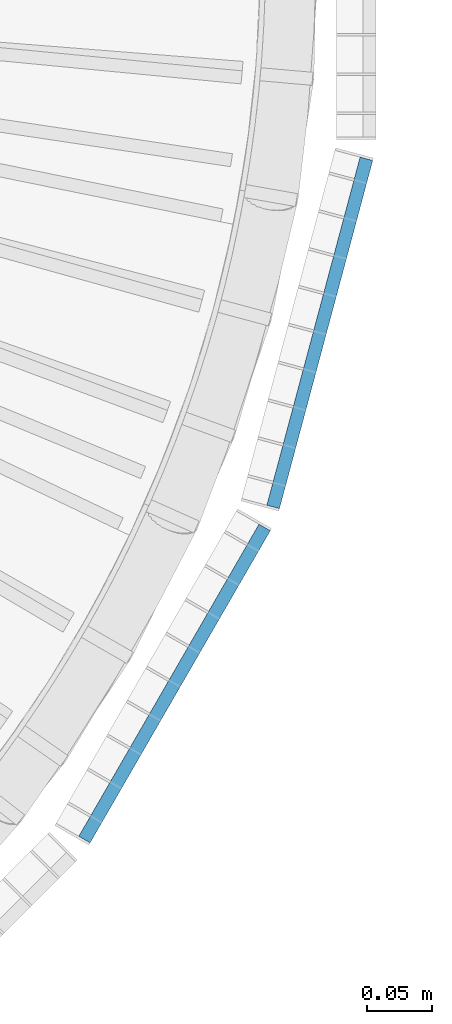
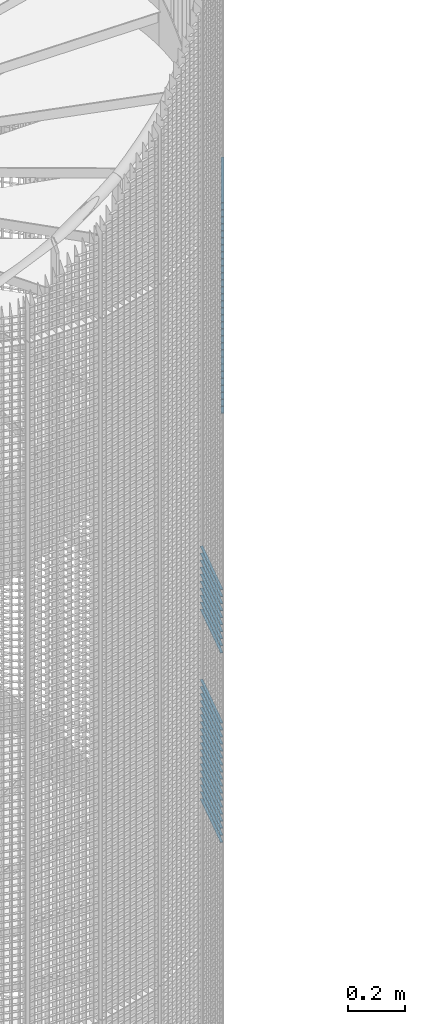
# One storey, part 258 of 1183: 59 beams, 2 elements without a shape of their own.
"""IFC2X3 building model written with IfcOpenShell, lengths in millimetres."""

from ifc_helpers import new_model, si_unit, frame, origin_with_axes, origin_2d_with_axis, place, context, subcontext, project, spatial, rectangle, extrude, material, type_object, element, aggregate, save


model = new_model("IFC2X3")

# Units and contexts
model_context = context("Model", 3, precision=1e-05, world=origin_with_axes())
body_context = subcontext(model_context, "Body", "Model", "MODEL_VIEW")
ifc_project = project(units=[si_unit("LENGTHUNIT", "METRE", prefix="MILLI"), si_unit("AREAUNIT", "SQUARE_METRE"), si_unit("VOLUMEUNIT", "CUBIC_METRE"), si_unit("MASSUNIT", "GRAM", prefix="KILO"), si_unit("TIMEUNIT", "SECOND"), si_unit("PLANEANGLEUNIT", "RADIAN"), si_unit("SOLIDANGLEUNIT", "STERADIAN"), si_unit("THERMODYNAMICTEMPERATUREUNIT", "DEGREE_CELSIUS"), si_unit("LUMINOUSINTENSITYUNIT", "LUMEN")], contexts=[model_context])

# Site, building, storey
site_placement = place(None, origin_with_axes())
site = spatial("IfcSite", under=ifc_project, at=site_placement, Name="Undefined", CompositionType="ELEMENT")
building_placement = place(site_placement, origin_with_axes())
building = spatial("IfcBuilding", under=site, at=building_placement, Name="Undefined", CompositionType="ELEMENT")
storey_placement = place(building_placement, origin_with_axes())
storey = spatial("IfcBuildingStorey", under=building, at=storey_placement, Name="Undefined", CompositionType="ELEMENT", Elevation=0.0)

# Assembly, beams
assembly_1_placement = place(storey_placement, origin_with_axes())
assembly_1 = element("IfcElementAssembly", 1, at=assembly_1_placement, inside=storey, Name="BORDURE", AssemblyPlace="NOTDEFINED", PredefinedType="NOTDEFINED")
ifc_material = material(Name="STEEL/S235JR")
beam_type = type_object("IfcBeamType", Name="PL2*10", PredefinedType="NOTDEFINED")
beam_1_placement = place(assembly_1_placement, frame((1039.82309522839, -421.483733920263, 3540.0), z_axis=(0.965925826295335, -0.258819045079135, 0.0), x_axis=(0.258819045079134, 0.965925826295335, 0.0)))
beam_1 = element("IfcBeam", 2, at=beam_1_placement, type_object=beam_type, material=ifc_material, Name="ENTRETOISE", context=body_context, shape_type="SweptSolid", body=[
    extrude(rectangle(XDim=2.0, YDim=10.0, at=origin_2d_with_axis()), frame((275.999999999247, 9.09494701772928e-13, 1.53210777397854e-14), z_axis=(-1.0, 0.0, 0.0), x_axis=(0.0, -1.0, 0.0)), (0.0, 0.0, 1.0), 276.0),
])
beam_2_placement = place(assembly_1_placement, frame((1039.82309522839, -421.483733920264, 3840.0), z_axis=(0.965925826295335, -0.258819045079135, 0.0), x_axis=(0.258819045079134, 0.965925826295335, 0.0)))
beam_2 = element("IfcBeam", 3, at=beam_2_placement, type_object=beam_type, material=ifc_material, Name="ENTRETOISE", context=body_context, shape_type="SweptSolid", body=[
    extrude(rectangle(XDim=2.0, YDim=10.0, at=origin_2d_with_axis()), frame((275.999999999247, 9.09494701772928e-13, 1.53210777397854e-14), z_axis=(-1.0, 0.0, 0.0), x_axis=(0.0, -1.0, 0.0)), (0.0, 0.0, 1.0), 276.0),
])
beam_3_placement = place(assembly_1_placement, frame((1039.82309522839, -421.483733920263, 3510.0), z_axis=(0.965925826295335, -0.258819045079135, 0.0), x_axis=(0.258819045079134, 0.965925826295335, 0.0)))
beam_3 = element("IfcBeam", 4, at=beam_3_placement, type_object=beam_type, material=ifc_material, Name="ENTRETOISE", context=body_context, shape_type="SweptSolid", body=[
    extrude(rectangle(XDim=2.0, YDim=10.0, at=origin_2d_with_axis()), frame((275.999999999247, 9.09494701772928e-13, 1.53210777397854e-14), z_axis=(-1.0, 0.0, 0.0), x_axis=(0.0, -1.0, 0.0)), (0.0, 0.0, 1.0), 276.0),
])
beam_4_placement = place(assembly_1_placement, frame((1039.82309522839, -421.483733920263, 3480.0), z_axis=(0.965925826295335, -0.258819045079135, 0.0), x_axis=(0.258819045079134, 0.965925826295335, 0.0)))
beam_4 = element("IfcBeam", 5, at=beam_4_placement, type_object=beam_type, material=ifc_material, Name="ENTRETOISE", context=body_context, shape_type="SweptSolid", body=[
    extrude(rectangle(XDim=2.0, YDim=10.0, at=origin_2d_with_axis()), frame((275.999999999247, 9.09494701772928e-13, 1.53210777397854e-14), z_axis=(-1.0, 0.0, 0.0), x_axis=(0.0, -1.0, 0.0)), (0.0, 0.0, 1.0), 276.0),
])
beam_5_placement = place(assembly_1_placement, frame((1039.82309522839, -421.483733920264, 3870.0), z_axis=(0.965925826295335, -0.258819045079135, 0.0), x_axis=(0.258819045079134, 0.965925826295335, 0.0)))
beam_5 = element("IfcBeam", 6, at=beam_5_placement, type_object=beam_type, material=ifc_material, Name="ENTRETOISE", context=body_context, shape_type="SweptSolid", body=[
    extrude(rectangle(XDim=2.0, YDim=10.0, at=origin_2d_with_axis()), frame((275.999999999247, 9.09494701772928e-13, 1.53210777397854e-14), z_axis=(-1.0, 0.0, 0.0), x_axis=(0.0, -1.0, 0.0)), (0.0, 0.0, 1.0), 276.0),
])
beam_6_placement = place(assembly_1_placement, frame((1039.82309522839, -421.483733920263, 3450.0), z_axis=(0.965925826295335, -0.258819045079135, 0.0), x_axis=(0.258819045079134, 0.965925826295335, 0.0)))
beam_6 = element("IfcBeam", 7, at=beam_6_placement, type_object=beam_type, material=ifc_material, Name="ENTRETOISE", context=body_context, shape_type="SweptSolid", body=[
    extrude(rectangle(XDim=2.0, YDim=10.0, at=origin_2d_with_axis()), frame((275.999999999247, 9.09494701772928e-13, 1.53210777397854e-14), z_axis=(-1.0, 0.0, 0.0), x_axis=(0.0, -1.0, 0.0)), (0.0, 0.0, 1.0), 276.0),
])
beam_7_placement = place(assembly_1_placement, frame((1039.82309522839, -421.483733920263, 3420.0), z_axis=(0.965925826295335, -0.258819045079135, 0.0), x_axis=(0.258819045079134, 0.965925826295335, 0.0)))
beam_7 = element("IfcBeam", 8, at=beam_7_placement, type_object=beam_type, material=ifc_material, Name="ENTRETOISE", context=body_context, shape_type="SweptSolid", body=[
    extrude(rectangle(XDim=2.0, YDim=10.0, at=origin_2d_with_axis()), frame((275.999999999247, 9.09494701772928e-13, 1.53210777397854e-14), z_axis=(-1.0, 0.0, 0.0), x_axis=(0.0, -1.0, 0.0)), (0.0, 0.0, 1.0), 276.0),
])
beam_8_placement = place(assembly_1_placement, frame((1039.82309522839, -421.483733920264, 3900.0), z_axis=(0.965925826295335, -0.258819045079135, 0.0), x_axis=(0.258819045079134, 0.965925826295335, 0.0)))
beam_8 = element("IfcBeam", 9, at=beam_8_placement, type_object=beam_type, material=ifc_material, Name="ENTRETOISE", context=body_context, shape_type="SweptSolid", body=[
    extrude(rectangle(XDim=2.0, YDim=10.0, at=origin_2d_with_axis()), frame((275.999999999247, 9.09494701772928e-13, 1.53210777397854e-14), z_axis=(-1.0, 0.0, 0.0), x_axis=(0.0, -1.0, 0.0)), (0.0, 0.0, 1.0), 276.0),
])
beam_9_placement = place(assembly_1_placement, frame((1039.82309522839, -421.483733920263, 3390.0), z_axis=(0.965925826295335, -0.258819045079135, 0.0), x_axis=(0.258819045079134, 0.965925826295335, 0.0)))
beam_9 = element("IfcBeam", 10, at=beam_9_placement, type_object=beam_type, material=ifc_material, Name="ENTRETOISE", context=body_context, shape_type="SweptSolid", body=[
    extrude(rectangle(XDim=2.0, YDim=10.0, at=origin_2d_with_axis()), frame((275.999999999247, 9.09494701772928e-13, 1.53210777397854e-14), z_axis=(-1.0, 0.0, 0.0), x_axis=(0.0, -1.0, 0.0)), (0.0, 0.0, 1.0), 276.0),
])
beam_10_placement = place(assembly_1_placement, frame((1039.82309522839, -421.483733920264, 3930.0), z_axis=(0.965925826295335, -0.258819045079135, 0.0), x_axis=(0.258819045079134, 0.965925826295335, 0.0)))
beam_10 = element("IfcBeam", 11, at=beam_10_placement, type_object=beam_type, material=ifc_material, Name="ENTRETOISE", context=body_context, shape_type="SweptSolid", body=[
    extrude(rectangle(XDim=2.0, YDim=10.0, at=origin_2d_with_axis()), frame((275.999999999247, 9.09494701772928e-13, 1.53210777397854e-14), z_axis=(-1.0, 0.0, 0.0), x_axis=(0.0, -1.0, 0.0)), (0.0, 0.0, 1.0), 276.0),
])
beam_11_placement = place(assembly_1_placement, frame((1039.82309522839, -421.483733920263, 3360.0), z_axis=(0.965925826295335, -0.258819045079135, 0.0), x_axis=(0.258819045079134, 0.965925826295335, 0.0)))
beam_11 = element("IfcBeam", 12, at=beam_11_placement, type_object=beam_type, material=ifc_material, Name="ENTRETOISE", context=body_context, shape_type="SweptSolid", body=[
    extrude(rectangle(XDim=2.0, YDim=10.0, at=origin_2d_with_axis()), frame((275.999999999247, 9.09494701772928e-13, 1.53210777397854e-14), z_axis=(-1.0, 0.0, 0.0), x_axis=(0.0, -1.0, 0.0)), (0.0, 0.0, 1.0), 276.0),
])
beam_12_placement = place(assembly_1_placement, frame((1039.82309522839, -421.483733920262, 3330.0), z_axis=(0.965925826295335, -0.258819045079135, 0.0), x_axis=(0.258819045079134, 0.965925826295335, 0.0)))
beam_12 = element("IfcBeam", 13, at=beam_12_placement, type_object=beam_type, material=ifc_material, Name="ENTRETOISE", context=body_context, shape_type="SweptSolid", body=[
    extrude(rectangle(XDim=2.0, YDim=10.0, at=origin_2d_with_axis()), frame((275.999999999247, 9.09494701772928e-13, 1.53210777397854e-14), z_axis=(-1.0, 0.0, 0.0), x_axis=(0.0, -1.0, 0.0)), (0.0, 0.0, 1.0), 276.0),
])
beam_13_placement = place(assembly_1_placement, frame((1039.82309522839, -421.483733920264, 3960.0), z_axis=(0.965925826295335, -0.258819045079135, 0.0), x_axis=(0.258819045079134, 0.965925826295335, 0.0)))
beam_13 = element("IfcBeam", 14, at=beam_13_placement, type_object=beam_type, material=ifc_material, Name="ENTRETOISE", context=body_context, shape_type="SweptSolid", body=[
    extrude(rectangle(XDim=2.0, YDim=10.0, at=origin_2d_with_axis()), frame((275.999999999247, 9.09494701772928e-13, 1.53210777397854e-14), z_axis=(-1.0, 0.0, 0.0), x_axis=(0.0, -1.0, 0.0)), (0.0, 0.0, 1.0), 276.0),
])
beam_14_placement = place(assembly_1_placement, frame((1039.82309522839, -421.483733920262, 3300.0), z_axis=(0.965925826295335, -0.258819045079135, 0.0), x_axis=(0.258819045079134, 0.965925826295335, 0.0)))
beam_14 = element("IfcBeam", 15, at=beam_14_placement, type_object=beam_type, material=ifc_material, Name="ENTRETOISE", context=body_context, shape_type="SweptSolid", body=[
    extrude(rectangle(XDim=2.0, YDim=10.0, at=origin_2d_with_axis()), frame((275.999999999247, 9.09494701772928e-13, 1.53210777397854e-14), z_axis=(-1.0, 0.0, 0.0), x_axis=(0.0, -1.0, 0.0)), (0.0, 0.0, 1.0), 276.0),
])
beam_15_placement = place(assembly_1_placement, frame((1039.82309522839, -421.483733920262, 3270.0), z_axis=(0.965925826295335, -0.258819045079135, 0.0), x_axis=(0.258819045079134, 0.965925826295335, 0.0)))
beam_15 = element("IfcBeam", 16, at=beam_15_placement, type_object=beam_type, material=ifc_material, Name="ENTRETOISE", context=body_context, shape_type="SweptSolid", body=[
    extrude(rectangle(XDim=2.0, YDim=10.0, at=origin_2d_with_axis()), frame((275.999999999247, 9.09494701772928e-13, 1.53210777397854e-14), z_axis=(-1.0, 0.0, 0.0), x_axis=(0.0, -1.0, 0.0)), (0.0, 0.0, 1.0), 276.0),
])
beam_16_placement = place(assembly_1_placement, frame((1039.82309522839, -421.483733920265, 3990.0), z_axis=(0.965925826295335, -0.258819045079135, 0.0), x_axis=(0.258819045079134, 0.965925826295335, 0.0)))
beam_16 = element("IfcBeam", 17, at=beam_16_placement, type_object=beam_type, material=ifc_material, Name="ENTRETOISE", context=body_context, shape_type="SweptSolid", body=[
    extrude(rectangle(XDim=2.0, YDim=10.0, at=origin_2d_with_axis()), frame((275.999999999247, 9.09494701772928e-13, 1.53210777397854e-14), z_axis=(-1.0, 0.0, 0.0), x_axis=(0.0, -1.0, 0.0)), (0.0, 0.0, 1.0), 276.0),
])
beam_17_placement = place(assembly_1_placement, frame((1039.82309522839, -421.483733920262, 3240.0), z_axis=(0.965925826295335, -0.258819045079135, 0.0), x_axis=(0.258819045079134, 0.965925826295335, 0.0)))
beam_17 = element("IfcBeam", 18, at=beam_17_placement, type_object=beam_type, material=ifc_material, Name="ENTRETOISE", context=body_context, shape_type="SweptSolid", body=[
    extrude(rectangle(XDim=2.0, YDim=10.0, at=origin_2d_with_axis()), frame((275.999999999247, 9.09494701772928e-13, 1.53210777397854e-14), z_axis=(-1.0, 0.0, 0.0), x_axis=(0.0, -1.0, 0.0)), (0.0, 0.0, 1.0), 276.0),
])
beam_18_placement = place(assembly_1_placement, frame((1039.82309522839, -421.483733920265, 4020.0), z_axis=(0.965925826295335, -0.258819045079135, 0.0), x_axis=(0.258819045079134, 0.965925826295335, 0.0)))
beam_18 = element("IfcBeam", 19, at=beam_18_placement, type_object=beam_type, material=ifc_material, Name="ENTRETOISE", context=body_context, shape_type="SweptSolid", body=[
    extrude(rectangle(XDim=2.0, YDim=10.0, at=origin_2d_with_axis()), frame((275.999999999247, 9.09494701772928e-13, 1.53210777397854e-14), z_axis=(-1.0, 0.0, 0.0), x_axis=(0.0, -1.0, 0.0)), (0.0, 0.0, 1.0), 276.0),
])
beam_19_placement = place(assembly_1_placement, frame((1039.82309522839, -421.483733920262, 3210.0), z_axis=(0.965925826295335, -0.258819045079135, 0.0), x_axis=(0.258819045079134, 0.965925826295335, 0.0)))
beam_19 = element("IfcBeam", 20, at=beam_19_placement, type_object=beam_type, material=ifc_material, Name="ENTRETOISE", context=body_context, shape_type="SweptSolid", body=[
    extrude(rectangle(XDim=2.0, YDim=10.0, at=origin_2d_with_axis()), frame((275.999999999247, 9.09494701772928e-13, 1.53210777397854e-14), z_axis=(-1.0, 0.0, 0.0), x_axis=(0.0, -1.0, 0.0)), (0.0, 0.0, 1.0), 276.0),
])
beam_20_placement = place(assembly_1_placement, frame((1039.82309522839, -421.483733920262, 3180.0), z_axis=(0.965925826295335, -0.258819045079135, 0.0), x_axis=(0.258819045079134, 0.965925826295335, 0.0)))
beam_20 = element("IfcBeam", 21, at=beam_20_placement, type_object=beam_type, material=ifc_material, Name="ENTRETOISE", context=body_context, shape_type="SweptSolid", body=[
    extrude(rectangle(XDim=2.0, YDim=10.0, at=origin_2d_with_axis()), frame((275.999999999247, 9.09494701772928e-13, 1.53210777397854e-14), z_axis=(-1.0, 0.0, 0.0), x_axis=(0.0, -1.0, 0.0)), (0.0, 0.0, 1.0), 276.0),
])
beam_21_placement = place(assembly_1_placement, frame((1039.82309522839, -421.483733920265, 4050.0), z_axis=(0.965925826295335, -0.258819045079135, 0.0), x_axis=(0.258819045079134, 0.965925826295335, 0.0)))
beam_21 = element("IfcBeam", 22, at=beam_21_placement, type_object=beam_type, material=ifc_material, Name="ENTRETOISE", context=body_context, shape_type="SweptSolid", body=[
    extrude(rectangle(XDim=2.0, YDim=10.0, at=origin_2d_with_axis()), frame((275.999999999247, 9.09494701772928e-13, 1.53210777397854e-14), z_axis=(-1.0, 0.0, 0.0), x_axis=(0.0, -1.0, 0.0)), (0.0, 0.0, 1.0), 276.0),
])
beam_22_placement = place(assembly_1_placement, frame((1039.82309522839, -421.483733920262, 3150.0), z_axis=(0.965925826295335, -0.258819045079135, 0.0), x_axis=(0.258819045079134, 0.965925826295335, 0.0)))
beam_22 = element("IfcBeam", 23, at=beam_22_placement, type_object=beam_type, material=ifc_material, Name="ENTRETOISE", context=body_context, shape_type="SweptSolid", body=[
    extrude(rectangle(XDim=2.0, YDim=10.0, at=origin_2d_with_axis()), frame((275.999999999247, 9.09494701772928e-13, 1.53210777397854e-14), z_axis=(-1.0, 0.0, 0.0), x_axis=(0.0, -1.0, 0.0)), (0.0, 0.0, 1.0), 276.0),
])
beam_23_placement = place(assembly_1_placement, frame((1039.82309522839, -421.483733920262, 3120.0), z_axis=(0.965925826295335, -0.258819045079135, 0.0), x_axis=(0.258819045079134, 0.965925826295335, 0.0)))
beam_23 = element("IfcBeam", 24, at=beam_23_placement, type_object=beam_type, material=ifc_material, Name="ENTRETOISE", context=body_context, shape_type="SweptSolid", body=[
    extrude(rectangle(XDim=2.0, YDim=10.0, at=origin_2d_with_axis()), frame((275.999999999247, 9.09494701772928e-13, 1.53210777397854e-14), z_axis=(-1.0, 0.0, 0.0), x_axis=(0.0, -1.0, 0.0)), (0.0, 0.0, 1.0), 276.0),
])
beam_24_placement = place(assembly_1_placement, frame((1039.82309522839, -421.483733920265, 4080.0), z_axis=(0.965925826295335, -0.258819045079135, 0.0), x_axis=(0.258819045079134, 0.965925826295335, 0.0)))
beam_24 = element("IfcBeam", 25, at=beam_24_placement, type_object=beam_type, material=ifc_material, Name="ENTRETOISE", context=body_context, shape_type="SweptSolid", body=[
    extrude(rectangle(XDim=2.0, YDim=10.0, at=origin_2d_with_axis()), frame((275.999999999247, 9.09494701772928e-13, 1.53210777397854e-14), z_axis=(-1.0, 0.0, 0.0), x_axis=(0.0, -1.0, 0.0)), (0.0, 0.0, 1.0), 276.0),
])
beam_25_placement = place(assembly_1_placement, frame((1039.82309522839, -421.483733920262, 3090.0), z_axis=(0.965925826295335, -0.258819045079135, 0.0), x_axis=(0.258819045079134, 0.965925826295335, 0.0)))
beam_25 = element("IfcBeam", 26, at=beam_25_placement, type_object=beam_type, material=ifc_material, Name="ENTRETOISE", context=body_context, shape_type="SweptSolid", body=[
    extrude(rectangle(XDim=2.0, YDim=10.0, at=origin_2d_with_axis()), frame((275.999999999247, 9.09494701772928e-13, 1.53210777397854e-14), z_axis=(-1.0, 0.0, 0.0), x_axis=(0.0, -1.0, 0.0)), (0.0, 0.0, 1.0), 276.0),
])
beam_26_placement = place(assembly_1_placement, frame((1039.82309522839, -421.483733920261, 3060.0), z_axis=(0.965925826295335, -0.258819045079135, 0.0), x_axis=(0.258819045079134, 0.965925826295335, 0.0)))
beam_26 = element("IfcBeam", 27, at=beam_26_placement, type_object=beam_type, material=ifc_material, Name="ENTRETOISE", context=body_context, shape_type="SweptSolid", body=[
    extrude(rectangle(XDim=2.0, YDim=10.0, at=origin_2d_with_axis()), frame((275.999999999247, 9.09494701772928e-13, 1.53210777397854e-14), z_axis=(-1.0, 0.0, 0.0), x_axis=(0.0, -1.0, 0.0)), (0.0, 0.0, 1.0), 276.0),
])
beam_27_placement = place(assembly_1_placement, frame((1039.82309522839, -421.483733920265, 4110.0), z_axis=(0.965925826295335, -0.258819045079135, 0.0), x_axis=(0.258819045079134, 0.965925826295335, 0.0)))
beam_27 = element("IfcBeam", 28, at=beam_27_placement, type_object=beam_type, material=ifc_material, Name="ENTRETOISE", context=body_context, shape_type="SweptSolid", body=[
    extrude(rectangle(XDim=2.0, YDim=10.0, at=origin_2d_with_axis()), frame((275.999999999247, 9.09494701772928e-13, 1.53210777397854e-14), z_axis=(-1.0, 0.0, 0.0), x_axis=(0.0, -1.0, 0.0)), (0.0, 0.0, 1.0), 276.0),
])
beam_28_placement = place(assembly_1_placement, frame((1039.82309522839, -421.48373392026, 3030.0), z_axis=(0.965925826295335, -0.258819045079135, 0.0), x_axis=(0.258819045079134, 0.965925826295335, 0.0)))
beam_28 = element("IfcBeam", 29, at=beam_28_placement, type_object=beam_type, material=ifc_material, Name="ENTRETOISE", context=body_context, shape_type="SweptSolid", body=[
    extrude(rectangle(XDim=2.0, YDim=10.0, at=origin_2d_with_axis()), frame((275.999999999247, 9.09494701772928e-13, 1.53210777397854e-14), z_axis=(-1.0, 0.0, 0.0), x_axis=(0.0, -1.0, 0.0)), (0.0, 0.0, 1.0), 276.0),
])
aggregate(assembly_1, [beam_1, beam_2, beam_3, beam_4, beam_5, beam_6, beam_7, beam_8, beam_9, beam_10, beam_11, beam_12, beam_13, beam_14, beam_15, beam_16, beam_17, beam_18, beam_19, beam_20, beam_21, beam_22, beam_23, beam_24, beam_25, beam_26, beam_27, beam_28])

assembly_2_placement = place(storey_placement, origin_with_axes())
assembly_2 = element("IfcElementAssembly", 30, at=assembly_2_placement, inside=storey, Name="BORDURE", AssemblyPlace="NOTDEFINED", PredefinedType="NOTDEFINED")
beam_29_placement = place(assembly_2_placement, frame((895.303964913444, -676.248044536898, 5970.0), z_axis=(0.866025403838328, -0.49999999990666, 0.0), x_axis=(0.49999999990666, 0.866025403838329, 0.0)))
beam_29 = element("IfcBeam", 31, at=beam_29_placement, type_object=beam_type, material=ifc_material, Name="ENTRETOISE", context=body_context, shape_type="SweptSolid", body=[
    extrude(rectangle(XDim=2.0, YDim=10.0, at=origin_2d_with_axis()), frame((275.999999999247, 9.09494701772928e-13, 1.53210777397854e-14), z_axis=(-1.0, 0.0, 0.0), x_axis=(0.0, -1.0, 0.0)), (0.0, 0.0, 1.0), 276.0),
])
beam_30_placement = place(assembly_2_placement, frame((895.303964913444, -676.248044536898, 5940.0), z_axis=(0.866025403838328, -0.49999999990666, 0.0), x_axis=(0.49999999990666, 0.866025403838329, 0.0)))
beam_30 = element("IfcBeam", 32, at=beam_30_placement, type_object=beam_type, material=ifc_material, Name="ENTRETOISE", context=body_context, shape_type="SweptSolid", body=[
    extrude(rectangle(XDim=2.0, YDim=10.0, at=origin_2d_with_axis()), frame((275.999999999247, 9.09494701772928e-13, 1.53210777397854e-14), z_axis=(-1.0, 0.0, 0.0), x_axis=(0.0, -1.0, 0.0)), (0.0, 0.0, 1.0), 276.0),
])
beam_31_placement = place(assembly_2_placement, frame((895.303964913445, -676.248044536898, 5910.0), z_axis=(0.866025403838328, -0.49999999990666, 0.0), x_axis=(0.49999999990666, 0.866025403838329, 0.0)))
beam_31 = element("IfcBeam", 33, at=beam_31_placement, type_object=beam_type, material=ifc_material, Name="ENTRETOISE", context=body_context, shape_type="SweptSolid", body=[
    extrude(rectangle(XDim=2.0, YDim=10.0, at=origin_2d_with_axis()), frame((275.999999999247, 9.09494701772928e-13, 1.53210777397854e-14), z_axis=(-1.0, 0.0, 0.0), x_axis=(0.0, -1.0, 0.0)), (0.0, 0.0, 1.0), 276.0),
])
beam_32_placement = place(assembly_2_placement, frame((895.303964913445, -676.248044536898, 5880.0), z_axis=(0.866025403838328, -0.49999999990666, 0.0), x_axis=(0.49999999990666, 0.866025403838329, 0.0)))
beam_32 = element("IfcBeam", 34, at=beam_32_placement, type_object=beam_type, material=ifc_material, Name="ENTRETOISE", context=body_context, shape_type="SweptSolid", body=[
    extrude(rectangle(XDim=2.0, YDim=10.0, at=origin_2d_with_axis()), frame((275.999999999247, 9.09494701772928e-13, 1.53210777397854e-14), z_axis=(-1.0, 0.0, 0.0), x_axis=(0.0, -1.0, 0.0)), (0.0, 0.0, 1.0), 276.0),
])
beam_33_placement = place(assembly_2_placement, frame((895.303964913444, -676.248044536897, 5850.0), z_axis=(0.866025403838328, -0.49999999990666, 0.0), x_axis=(0.49999999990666, 0.866025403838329, 0.0)))
beam_33 = element("IfcBeam", 35, at=beam_33_placement, type_object=beam_type, material=ifc_material, Name="ENTRETOISE", context=body_context, shape_type="SweptSolid", body=[
    extrude(rectangle(XDim=2.0, YDim=10.0, at=origin_2d_with_axis()), frame((275.999999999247, 9.09494701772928e-13, 1.53210777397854e-14), z_axis=(-1.0, 0.0, 0.0), x_axis=(0.0, -1.0, 0.0)), (0.0, 0.0, 1.0), 276.0),
])
beam_34_placement = place(assembly_2_placement, frame((895.303964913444, -676.248044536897, 5820.0), z_axis=(0.866025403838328, -0.49999999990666, 0.0), x_axis=(0.49999999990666, 0.866025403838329, 0.0)))
beam_34 = element("IfcBeam", 36, at=beam_34_placement, type_object=beam_type, material=ifc_material, Name="ENTRETOISE", context=body_context, shape_type="SweptSolid", body=[
    extrude(rectangle(XDim=2.0, YDim=10.0, at=origin_2d_with_axis()), frame((275.999999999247, 9.09494701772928e-13, 1.53210777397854e-14), z_axis=(-1.0, 0.0, 0.0), x_axis=(0.0, -1.0, 0.0)), (0.0, 0.0, 1.0), 276.0),
])
beam_35_placement = place(assembly_2_placement, frame((895.303964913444, -676.248044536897, 5790.0), z_axis=(0.866025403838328, -0.49999999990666, 0.0), x_axis=(0.49999999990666, 0.866025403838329, 0.0)))
beam_35 = element("IfcBeam", 37, at=beam_35_placement, type_object=beam_type, material=ifc_material, Name="ENTRETOISE", context=body_context, shape_type="SweptSolid", body=[
    extrude(rectangle(XDim=2.0, YDim=10.0, at=origin_2d_with_axis()), frame((275.999999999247, 9.09494701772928e-13, 1.53210777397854e-14), z_axis=(-1.0, 0.0, 0.0), x_axis=(0.0, -1.0, 0.0)), (0.0, 0.0, 1.0), 276.0),
])
beam_36_placement = place(assembly_2_placement, frame((895.303964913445, -676.248044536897, 5760.0), z_axis=(0.866025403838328, -0.49999999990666, 0.0), x_axis=(0.49999999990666, 0.866025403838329, 0.0)))
beam_36 = element("IfcBeam", 38, at=beam_36_placement, type_object=beam_type, material=ifc_material, Name="ENTRETOISE", context=body_context, shape_type="SweptSolid", body=[
    extrude(rectangle(XDim=2.0, YDim=10.0, at=origin_2d_with_axis()), frame((275.999999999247, 9.09494701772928e-13, 1.53210777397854e-14), z_axis=(-1.0, 0.0, 0.0), x_axis=(0.0, -1.0, 0.0)), (0.0, 0.0, 1.0), 276.0),
])
beam_37_placement = place(assembly_2_placement, frame((895.303964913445, -676.248044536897, 5730.0), z_axis=(0.866025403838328, -0.49999999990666, 0.0), x_axis=(0.49999999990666, 0.866025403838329, 0.0)))
beam_37 = element("IfcBeam", 39, at=beam_37_placement, type_object=beam_type, material=ifc_material, Name="ENTRETOISE", context=body_context, shape_type="SweptSolid", body=[
    extrude(rectangle(XDim=2.0, YDim=10.0, at=origin_2d_with_axis()), frame((275.999999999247, 9.09494701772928e-13, 1.53210777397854e-14), z_axis=(-1.0, 0.0, 0.0), x_axis=(0.0, -1.0, 0.0)), (0.0, 0.0, 1.0), 276.0),
])
beam_38_placement = place(assembly_2_placement, frame((895.303964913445, -676.248044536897, 5700.0), z_axis=(0.866025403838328, -0.49999999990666, 0.0), x_axis=(0.49999999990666, 0.866025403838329, 0.0)))
beam_38 = element("IfcBeam", 40, at=beam_38_placement, type_object=beam_type, material=ifc_material, Name="ENTRETOISE", context=body_context, shape_type="SweptSolid", body=[
    extrude(rectangle(XDim=2.0, YDim=10.0, at=origin_2d_with_axis()), frame((275.999999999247, 9.09494701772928e-13, 1.53210777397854e-14), z_axis=(-1.0, 0.0, 0.0), x_axis=(0.0, -1.0, 0.0)), (0.0, 0.0, 1.0), 276.0),
])
beam_39_placement = place(assembly_2_placement, frame((895.303964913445, -676.248044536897, 5670.0), z_axis=(0.866025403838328, -0.49999999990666, 0.0), x_axis=(0.49999999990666, 0.866025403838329, 0.0)))
beam_39 = element("IfcBeam", 41, at=beam_39_placement, type_object=beam_type, material=ifc_material, Name="ENTRETOISE", context=body_context, shape_type="SweptSolid", body=[
    extrude(rectangle(XDim=2.0, YDim=10.0, at=origin_2d_with_axis()), frame((275.999999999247, 9.09494701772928e-13, 1.53210777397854e-14), z_axis=(-1.0, 0.0, 0.0), x_axis=(0.0, -1.0, 0.0)), (0.0, 0.0, 1.0), 276.0),
])
beam_40_placement = place(assembly_2_placement, frame((895.303964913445, -676.248044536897, 5640.0), z_axis=(0.866025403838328, -0.49999999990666, 0.0), x_axis=(0.49999999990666, 0.866025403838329, 0.0)))
beam_40 = element("IfcBeam", 42, at=beam_40_placement, type_object=beam_type, material=ifc_material, Name="ENTRETOISE", context=body_context, shape_type="SweptSolid", body=[
    extrude(rectangle(XDim=2.0, YDim=10.0, at=origin_2d_with_axis()), frame((275.999999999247, 9.09494701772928e-13, 1.53210777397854e-14), z_axis=(-1.0, 0.0, 0.0), x_axis=(0.0, -1.0, 0.0)), (0.0, 0.0, 1.0), 276.0),
])
beam_41_placement = place(assembly_2_placement, frame((895.303964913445, -676.248044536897, 5610.0), z_axis=(0.866025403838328, -0.49999999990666, 0.0), x_axis=(0.49999999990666, 0.866025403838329, 0.0)))
beam_41 = element("IfcBeam", 43, at=beam_41_placement, type_object=beam_type, material=ifc_material, Name="ENTRETOISE", context=body_context, shape_type="SweptSolid", body=[
    extrude(rectangle(XDim=2.0, YDim=10.0, at=origin_2d_with_axis()), frame((275.999999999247, 9.09494701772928e-13, 1.53210777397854e-14), z_axis=(-1.0, 0.0, 0.0), x_axis=(0.0, -1.0, 0.0)), (0.0, 0.0, 1.0), 276.0),
])
beam_42_placement = place(assembly_2_placement, frame((895.303964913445, -676.248044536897, 5580.0), z_axis=(0.866025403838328, -0.49999999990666, 0.0), x_axis=(0.49999999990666, 0.866025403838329, 0.0)))
beam_42 = element("IfcBeam", 44, at=beam_42_placement, type_object=beam_type, material=ifc_material, Name="ENTRETOISE", context=body_context, shape_type="SweptSolid", body=[
    extrude(rectangle(XDim=2.0, YDim=10.0, at=origin_2d_with_axis()), frame((275.999999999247, 9.09494701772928e-13, 1.53210777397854e-14), z_axis=(-1.0, 0.0, 0.0), x_axis=(0.0, -1.0, 0.0)), (0.0, 0.0, 1.0), 276.0),
])
beam_43_placement = place(assembly_2_placement, frame((895.303964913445, -676.248044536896, 5550.0), z_axis=(0.866025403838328, -0.49999999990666, 0.0), x_axis=(0.49999999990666, 0.866025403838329, 0.0)))
beam_43 = element("IfcBeam", 45, at=beam_43_placement, type_object=beam_type, material=ifc_material, Name="ENTRETOISE", context=body_context, shape_type="SweptSolid", body=[
    extrude(rectangle(XDim=2.0, YDim=10.0, at=origin_2d_with_axis()), frame((275.999999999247, 9.09494701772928e-13, 1.53210777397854e-14), z_axis=(-1.0, 0.0, 0.0), x_axis=(0.0, -1.0, 0.0)), (0.0, 0.0, 1.0), 276.0),
])
beam_44_placement = place(assembly_2_placement, frame((895.303964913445, -676.248044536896, 5520.0), z_axis=(0.866025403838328, -0.49999999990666, 0.0), x_axis=(0.49999999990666, 0.866025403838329, 0.0)))
beam_44 = element("IfcBeam", 46, at=beam_44_placement, type_object=beam_type, material=ifc_material, Name="ENTRETOISE", context=body_context, shape_type="SweptSolid", body=[
    extrude(rectangle(XDim=2.0, YDim=10.0, at=origin_2d_with_axis()), frame((275.999999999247, 9.09494701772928e-13, 1.53210777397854e-14), z_axis=(-1.0, 0.0, 0.0), x_axis=(0.0, -1.0, 0.0)), (0.0, 0.0, 1.0), 276.0),
])
beam_45_placement = place(assembly_2_placement, frame((895.303964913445, -676.248044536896, 5490.0), z_axis=(0.866025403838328, -0.49999999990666, 0.0), x_axis=(0.49999999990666, 0.866025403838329, 0.0)))
beam_45 = element("IfcBeam", 47, at=beam_45_placement, type_object=beam_type, material=ifc_material, Name="ENTRETOISE", context=body_context, shape_type="SweptSolid", body=[
    extrude(rectangle(XDim=2.0, YDim=10.0, at=origin_2d_with_axis()), frame((275.999999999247, 9.09494701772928e-13, 1.53210777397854e-14), z_axis=(-1.0, 0.0, 0.0), x_axis=(0.0, -1.0, 0.0)), (0.0, 0.0, 1.0), 276.0),
])
beam_46_placement = place(assembly_2_placement, frame((895.303964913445, -676.248044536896, 5460.0), z_axis=(0.866025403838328, -0.49999999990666, 0.0), x_axis=(0.49999999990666, 0.866025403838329, 0.0)))
beam_46 = element("IfcBeam", 48, at=beam_46_placement, type_object=beam_type, material=ifc_material, Name="ENTRETOISE", context=body_context, shape_type="SweptSolid", body=[
    extrude(rectangle(XDim=2.0, YDim=10.0, at=origin_2d_with_axis()), frame((275.999999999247, 9.09494701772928e-13, 1.53210777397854e-14), z_axis=(-1.0, 0.0, 0.0), x_axis=(0.0, -1.0, 0.0)), (0.0, 0.0, 1.0), 276.0),
])
beam_47_placement = place(assembly_2_placement, frame((895.303964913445, -676.248044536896, 5430.0), z_axis=(0.866025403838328, -0.49999999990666, 0.0), x_axis=(0.49999999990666, 0.866025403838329, 0.0)))
beam_47 = element("IfcBeam", 49, at=beam_47_placement, type_object=beam_type, material=ifc_material, Name="ENTRETOISE", context=body_context, shape_type="SweptSolid", body=[
    extrude(rectangle(XDim=2.0, YDim=10.0, at=origin_2d_with_axis()), frame((275.999999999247, 9.09494701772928e-13, 1.53210777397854e-14), z_axis=(-1.0, 0.0, 0.0), x_axis=(0.0, -1.0, 0.0)), (0.0, 0.0, 1.0), 276.0),
])
beam_48_placement = place(assembly_2_placement, frame((895.303964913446, -676.248044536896, 5400.0), z_axis=(0.866025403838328, -0.49999999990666, 0.0), x_axis=(0.49999999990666, 0.866025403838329, 0.0)))
beam_48 = element("IfcBeam", 50, at=beam_48_placement, type_object=beam_type, material=ifc_material, Name="ENTRETOISE", context=body_context, shape_type="SweptSolid", body=[
    extrude(rectangle(XDim=2.0, YDim=10.0, at=origin_2d_with_axis()), frame((275.999999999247, 9.09494701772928e-13, 1.53210777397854e-14), z_axis=(-1.0, 0.0, 0.0), x_axis=(0.0, -1.0, 0.0)), (0.0, 0.0, 1.0), 276.0),
])
beam_49_placement = place(assembly_2_placement, frame((895.303964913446, -676.248044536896, 5370.0), z_axis=(0.866025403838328, -0.49999999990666, 0.0), x_axis=(0.49999999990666, 0.866025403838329, 0.0)))
beam_49 = element("IfcBeam", 51, at=beam_49_placement, type_object=beam_type, material=ifc_material, Name="ENTRETOISE", context=body_context, shape_type="SweptSolid", body=[
    extrude(rectangle(XDim=2.0, YDim=10.0, at=origin_2d_with_axis()), frame((275.999999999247, 9.09494701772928e-13, 1.53210777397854e-14), z_axis=(-1.0, 0.0, 0.0), x_axis=(0.0, -1.0, 0.0)), (0.0, 0.0, 1.0), 276.0),
])
beam_50_placement = place(assembly_2_placement, frame((895.303964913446, -676.248044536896, 5340.0), z_axis=(0.866025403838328, -0.49999999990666, 0.0), x_axis=(0.49999999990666, 0.866025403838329, 0.0)))
beam_50 = element("IfcBeam", 52, at=beam_50_placement, type_object=beam_type, material=ifc_material, Name="ENTRETOISE", context=body_context, shape_type="SweptSolid", body=[
    extrude(rectangle(XDim=2.0, YDim=10.0, at=origin_2d_with_axis()), frame((275.999999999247, 9.09494701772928e-13, 1.53210777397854e-14), z_axis=(-1.0, 0.0, 0.0), x_axis=(0.0, -1.0, 0.0)), (0.0, 0.0, 1.0), 276.0),
])
beam_51_placement = place(assembly_2_placement, frame((895.303964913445, -676.248044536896, 5310.0), z_axis=(0.866025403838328, -0.49999999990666, 0.0), x_axis=(0.49999999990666, 0.866025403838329, 0.0)))
beam_51 = element("IfcBeam", 53, at=beam_51_placement, type_object=beam_type, material=ifc_material, Name="ENTRETOISE", context=body_context, shape_type="SweptSolid", body=[
    extrude(rectangle(XDim=2.0, YDim=10.0, at=origin_2d_with_axis()), frame((275.999999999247, 9.09494701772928e-13, 1.53210777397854e-14), z_axis=(-1.0, 0.0, 0.0), x_axis=(0.0, -1.0, 0.0)), (0.0, 0.0, 1.0), 276.0),
])
beam_52_placement = place(assembly_2_placement, frame((895.303964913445, -676.248044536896, 5280.0), z_axis=(0.866025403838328, -0.49999999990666, 0.0), x_axis=(0.49999999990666, 0.866025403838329, 0.0)))
beam_52 = element("IfcBeam", 54, at=beam_52_placement, type_object=beam_type, material=ifc_material, Name="ENTRETOISE", context=body_context, shape_type="SweptSolid", body=[
    extrude(rectangle(XDim=2.0, YDim=10.0, at=origin_2d_with_axis()), frame((275.999999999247, 9.09494701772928e-13, 1.53210777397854e-14), z_axis=(-1.0, 0.0, 0.0), x_axis=(0.0, -1.0, 0.0)), (0.0, 0.0, 1.0), 276.0),
])
beam_53_placement = place(assembly_2_placement, frame((895.303964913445, -676.248044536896, 5250.0), z_axis=(0.866025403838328, -0.49999999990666, 0.0), x_axis=(0.49999999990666, 0.866025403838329, 0.0)))
beam_53 = element("IfcBeam", 55, at=beam_53_placement, type_object=beam_type, material=ifc_material, Name="ENTRETOISE", context=body_context, shape_type="SweptSolid", body=[
    extrude(rectangle(XDim=2.0, YDim=10.0, at=origin_2d_with_axis()), frame((275.999999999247, 9.09494701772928e-13, 1.53210777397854e-14), z_axis=(-1.0, 0.0, 0.0), x_axis=(0.0, -1.0, 0.0)), (0.0, 0.0, 1.0), 276.0),
])
beam_54_placement = place(assembly_2_placement, frame((895.303964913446, -676.248044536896, 5220.0), z_axis=(0.866025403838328, -0.49999999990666, 0.0), x_axis=(0.49999999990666, 0.866025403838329, 0.0)))
beam_54 = element("IfcBeam", 56, at=beam_54_placement, type_object=beam_type, material=ifc_material, Name="ENTRETOISE", context=body_context, shape_type="SweptSolid", body=[
    extrude(rectangle(XDim=2.0, YDim=10.0, at=origin_2d_with_axis()), frame((275.999999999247, 9.09494701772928e-13, 1.53210777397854e-14), z_axis=(-1.0, 0.0, 0.0), x_axis=(0.0, -1.0, 0.0)), (0.0, 0.0, 1.0), 276.0),
])
beam_55_placement = place(assembly_2_placement, frame((895.303964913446, -676.248044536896, 5190.0), z_axis=(0.866025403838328, -0.49999999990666, 0.0), x_axis=(0.49999999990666, 0.866025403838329, 0.0)))
beam_55 = element("IfcBeam", 57, at=beam_55_placement, type_object=beam_type, material=ifc_material, Name="ENTRETOISE", context=body_context, shape_type="SweptSolid", body=[
    extrude(rectangle(XDim=2.0, YDim=10.0, at=origin_2d_with_axis()), frame((275.999999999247, 9.09494701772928e-13, 1.53210777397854e-14), z_axis=(-1.0, 0.0, 0.0), x_axis=(0.0, -1.0, 0.0)), (0.0, 0.0, 1.0), 276.0),
])
beam_56_placement = place(assembly_2_placement, frame((895.303964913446, -676.248044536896, 5160.0), z_axis=(0.866025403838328, -0.49999999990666, 0.0), x_axis=(0.49999999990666, 0.866025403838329, 0.0)))
beam_56 = element("IfcBeam", 58, at=beam_56_placement, type_object=beam_type, material=ifc_material, Name="ENTRETOISE", context=body_context, shape_type="SweptSolid", body=[
    extrude(rectangle(XDim=2.0, YDim=10.0, at=origin_2d_with_axis()), frame((275.999999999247, 9.09494701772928e-13, 1.53210777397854e-14), z_axis=(-1.0, 0.0, 0.0), x_axis=(0.0, -1.0, 0.0)), (0.0, 0.0, 1.0), 276.0),
])
beam_57_placement = place(assembly_2_placement, frame((895.303964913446, -676.248044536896, 5130.0), z_axis=(0.866025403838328, -0.49999999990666, 0.0), x_axis=(0.49999999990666, 0.866025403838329, 0.0)))
beam_57 = element("IfcBeam", 59, at=beam_57_placement, type_object=beam_type, material=ifc_material, Name="ENTRETOISE", context=body_context, shape_type="SweptSolid", body=[
    extrude(rectangle(XDim=2.0, YDim=10.0, at=origin_2d_with_axis()), frame((275.999999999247, 9.09494701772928e-13, 1.53210777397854e-14), z_axis=(-1.0, 0.0, 0.0), x_axis=(0.0, -1.0, 0.0)), (0.0, 0.0, 1.0), 276.0),
])
beam_58_placement = place(assembly_2_placement, frame((895.303964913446, -676.248044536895, 5100.0), z_axis=(0.866025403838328, -0.49999999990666, 0.0), x_axis=(0.49999999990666, 0.866025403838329, 0.0)))
beam_58 = element("IfcBeam", 60, at=beam_58_placement, type_object=beam_type, material=ifc_material, Name="ENTRETOISE", context=body_context, shape_type="SweptSolid", body=[
    extrude(rectangle(XDim=2.0, YDim=10.0, at=origin_2d_with_axis()), frame((275.999999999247, 9.09494701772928e-13, 1.53210777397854e-14), z_axis=(-1.0, 0.0, 0.0), x_axis=(0.0, -1.0, 0.0)), (0.0, 0.0, 1.0), 276.0),
])
beam_59_placement = place(assembly_2_placement, frame((895.303964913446, -676.248044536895, 5070.0), z_axis=(0.866025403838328, -0.49999999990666, 0.0), x_axis=(0.49999999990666, 0.866025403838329, 0.0)))
beam_59 = element("IfcBeam", 61, at=beam_59_placement, type_object=beam_type, material=ifc_material, Name="ENTRETOISE", context=body_context, shape_type="SweptSolid", body=[
    extrude(rectangle(XDim=2.0, YDim=10.0, at=origin_2d_with_axis()), frame((275.999999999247, 9.09494701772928e-13, 1.53210777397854e-14), z_axis=(-1.0, 0.0, 0.0), x_axis=(0.0, -1.0, 0.0)), (0.0, 0.0, 1.0), 276.0),
])
aggregate(assembly_2, [beam_29, beam_30, beam_31, beam_32, beam_33, beam_34, beam_35, beam_36, beam_37, beam_38, beam_39, beam_40, beam_41, beam_42, beam_43, beam_44, beam_45, beam_46, beam_47, beam_48, beam_49, beam_50, beam_51, beam_52, beam_53, beam_54, beam_55, beam_56, beam_57, beam_58, beam_59])

save(model, "model.ifc")
